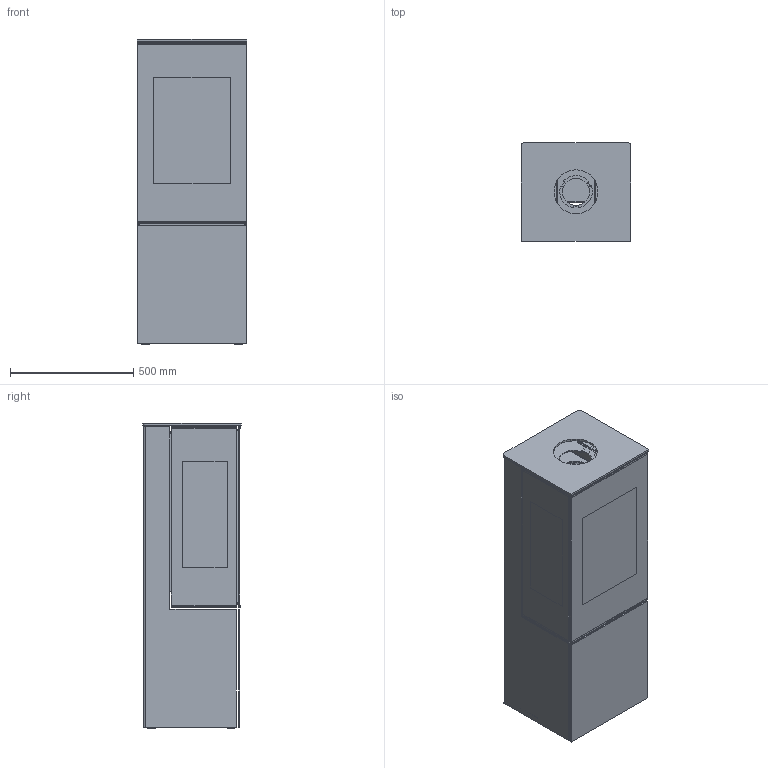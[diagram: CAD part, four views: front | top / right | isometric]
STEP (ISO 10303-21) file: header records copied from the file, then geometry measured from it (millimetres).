
FILE_DESCRIPTION(/* description */ (''),/* implementation_level */ '2;1');
FILE_NAME(/* name */ '10 NEXO 120 G Gas_10-0213.stp',/* time_stamp */ '2023-11-16T11:16:47+01:00',/* author */ ('ksj'),/* organization */ (''),/* preprocessor_version */ 'ST-DEVELOPER v19.2',/* originating_system */ 'Autodesk Inventor 2023',/* authorisation */ '');
FILE_SCHEMA (('AUTOMOTIVE_DESIGN { 1 0 10303 214 3 1 1 }'));
Products named in the file (1): 10 NEXO 120 G Gas_10-0213
Bounding box: 446 x 398 x 1240 mm (x, y, z)
Volume: 19220792.1 mm3; surface area: 7930291.6 mm2
Topology: 39 solids, 39 shells, 3025 faces, 7852 edges, 4872 vertices
Faces by surface type: plane 1765, cylinder 1028, bspline 154, sphere 62, cone 12, torus 4
Full cylindrical faces by diameter (mm): 8 x4, 20 x2, 32 x4, 110 x2, 134 x1, 178 x1
Entity records: 100079 total; most frequent: CARTESIAN_POINT 21799, ORIENTED_EDGE 15696, DIRECTION 15674, EDGE_CURVE 7848, LINE 5452, VECTOR 5452, AXIS2_PLACEMENT_3D 5111, VERTEX_POINT 4868
